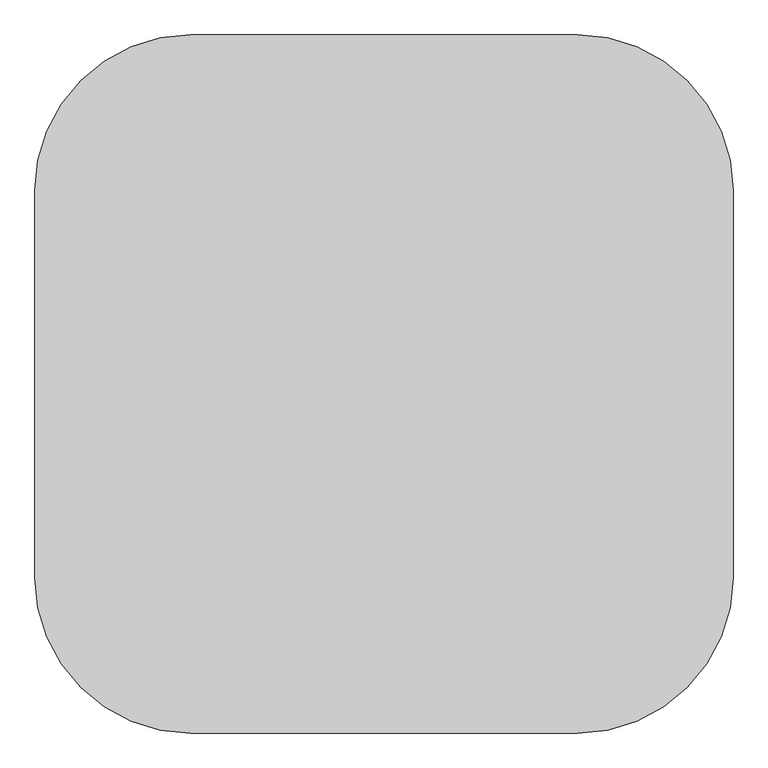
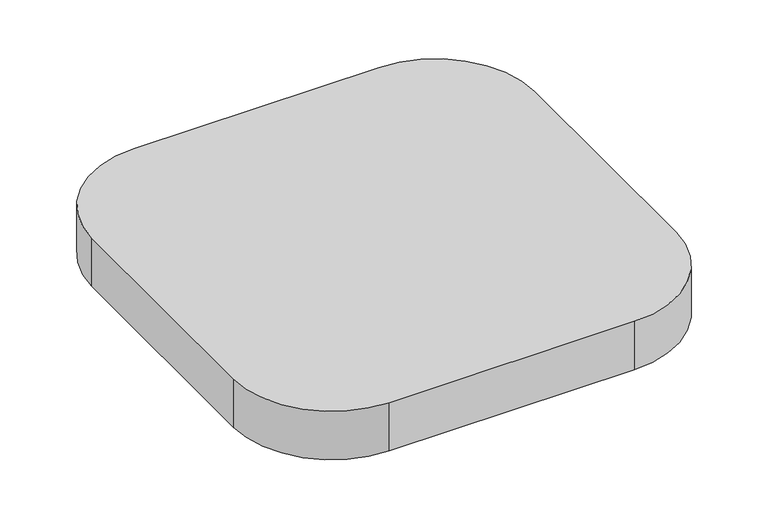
"""IFC4 building model written with IfcOpenShell, lengths in millimetres: proxy geometry, Blks_Instagram : Único."""

from ifc_helpers import new_model, si_unit, point, frame_2d, origin, origin_with_axes, place, context, project, spatial, polyline, circle_curve, trimmed, segment, composite_curve, outline, extrude, source, transform, mapped, element, save


def generic_models_9f50cdec(model_context):
    return source(origin(), model_context, "Body", "SweptSolid", [
        extrude(outline(composite_curve([segment(trimmed(circle_curve(frame_2d((360.0, -360.0)), 290.0), [point((650.0, -360.0))], [point((360.0, -650.0))], False, "CARTESIAN"), True, "CONTINUOUS"), segment(polyline([(360.0, -650.0), (-360.0, -650.0)]), True, "CONTINUOUS"), segment(trimmed(circle_curve(frame_2d((-360.0, -360.0)), 290.0), [point((-360.0, -650.0))], [point((-650.0, -360.0))], False, "CARTESIAN"), True, "CONTINUOUS"), segment(polyline([(-650.0, -360.0), (-650.0, 360.0)]), True, "CONTINUOUS"), segment(trimmed(circle_curve(frame_2d((-360.0, 360.0)), 290.0), [point((-650.0, 360.0))], [point((-360.0, 650.0))], False, "CARTESIAN"), True, "CONTINUOUS"), segment(polyline([(-360.0, 650.0), (360.0, 650.0)]), True, "CONTINUOUS"), segment(trimmed(circle_curve(frame_2d((360.0, 360.0)), 290.0), [point((360.0, 650.0))], [point((650.0, 360.0))], False, "CARTESIAN"), True, "CONTINUOUS"), segment(polyline([(650.0, 360.0), (650.0, -360.0)]), True, "CONTINUOUS")], self_intersect=False)), origin_with_axes(), (0.0, 0.0, 1.0), 150.0),
    ])


if __name__ == "__main__":
    model = new_model("IFC4")
    model_context = context("Model", 3, world=origin())
    ifc_project = project(units=[si_unit("LENGTHUNIT", "METRE", prefix="MILLI")], contexts=[model_context])
    site = spatial("IfcSite", under=ifc_project)
    building = spatial("IfcBuilding", under=site)
    placement = place(None, origin())
    generic_models_shape = generic_models_9f50cdec(model_context)
    element("IfcBuildingElementProxy", 1, Name="Blks_Instagram : Único", ObjectType="Blks_Instagram : Único", at=placement, inside=building, context=model_context, shape_type="MappedRepresentation", body=[
        mapped(generic_models_shape, transform((0.0, 0.0, 0.0), x_axis=(1.0, 0.0, 0.0), y_axis=(0.0, 1.0, 0.0), z_axis=(0.0, 0.0, 1.0))),
    ])
    save(model, "model.ifc")
